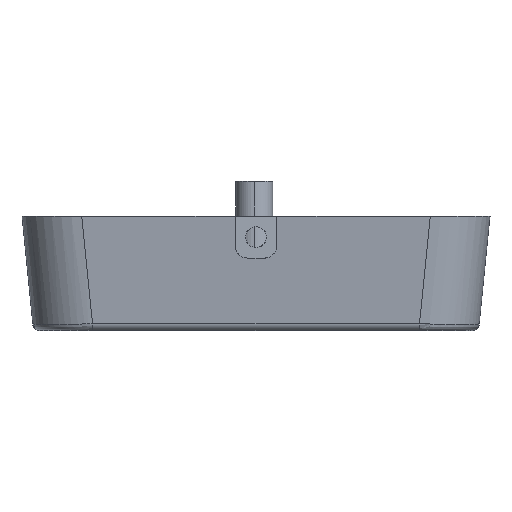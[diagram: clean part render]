
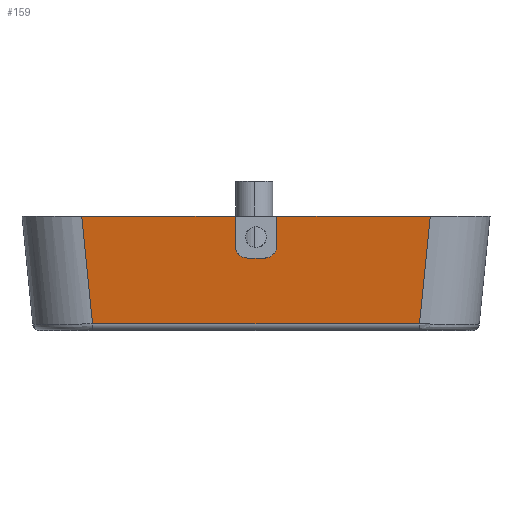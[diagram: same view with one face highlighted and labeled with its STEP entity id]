
A CAD part, left-side view. The second image highlights one B-rep face of the part: STEP entity #159.
In plain terms, the highlighted planar face has unit normal (-0.995, 0, -0.1).
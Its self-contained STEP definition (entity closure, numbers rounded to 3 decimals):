
#159=ADVANCED_FACE('',(#527),#5997,.T.);
#527=FACE_OUTER_BOUND('',#918,.T.);
#918=EDGE_LOOP('',(#1788,#1789,#1790,#1791,#1792,#1793,#1794,#1795,#1796,
#1797));
#1788=ORIENTED_EDGE('',*,*,#3622,.T.);
#1789=ORIENTED_EDGE('',*,*,#3623,.T.);
#1790=ORIENTED_EDGE('',*,*,#3701,.T.);
#1791=ORIENTED_EDGE('',*,*,#3620,.T.);
#1792=ORIENTED_EDGE('',*,*,#3621,.T.);
#1793=ORIENTED_EDGE('',*,*,#3601,.T.);
#1794=ORIENTED_EDGE('',*,*,#3448,.F.);
#1795=ORIENTED_EDGE('',*,*,#3452,.T.);
#1796=ORIENTED_EDGE('',*,*,#3445,.T.);
#1797=ORIENTED_EDGE('',*,*,#3437,.T.);
#3437=EDGE_CURVE('',#5430,#5553,#4182,.T.);
#3445=EDGE_CURVE('',#5447,#5430,#4187,.T.);
#3448=EDGE_CURVE('',#5448,#5431,#4188,.T.);
#3452=EDGE_CURVE('',#5448,#5447,#4190,.T.);
#3601=EDGE_CURVE('',#5552,#5431,#4226,.T.);
#3620=EDGE_CURVE('',#5550,#5551,#4771,.T.);
#3621=EDGE_CURVE('',#5551,#5552,#4772,.T.);
#3622=EDGE_CURVE('',#5553,#5554,#4773,.T.);
#3623=EDGE_CURVE('',#5554,#5555,#4774,.T.);
#3701=EDGE_CURVE('',#5555,#5550,#4833,.T.);
#4182=(
BOUNDED_CURVE()
B_SPLINE_CURVE(2,(#9299,#9300,#9301),.UNSPECIFIED.,.F.,.F.)
B_SPLINE_CURVE_WITH_KNOTS((3,3),(-188.,-155.415),
 .UNSPECIFIED.)
CURVE()
GEOMETRIC_REPRESENTATION_ITEM()
RATIONAL_B_SPLINE_CURVE((1.,1.,1.))
REPRESENTATION_ITEM('')
);
#4187=(
BOUNDED_CURVE()
B_SPLINE_CURVE(3,(#9322,#9323,#9324,#9325),.UNSPECIFIED.,.F.,.F.)
B_SPLINE_CURVE_WITH_KNOTS((4,4),(1.364,23.199),
 .UNSPECIFIED.)
CURVE()
GEOMETRIC_REPRESENTATION_ITEM()
RATIONAL_B_SPLINE_CURVE((1.,1.,1.,1.))
REPRESENTATION_ITEM('')
);
#4188=(
BOUNDED_CURVE()
B_SPLINE_CURVE(3,(#9331,#9332,#9333,#9334),.UNSPECIFIED.,.F.,.F.)
B_SPLINE_CURVE_WITH_KNOTS((4,4),(1.364,23.199),
 .UNSPECIFIED.)
CURVE()
GEOMETRIC_REPRESENTATION_ITEM()
RATIONAL_B_SPLINE_CURVE((1.,1.,1.,1.))
REPRESENTATION_ITEM('')
);
#4190=(
BOUNDED_CURVE()
B_SPLINE_CURVE(1,(#9344,#9345),.UNSPECIFIED.,.F.,.F.)
B_SPLINE_CURVE_WITH_KNOTS((2,2),(-0.135,65.541),
 .UNSPECIFIED.)
CURVE()
GEOMETRIC_REPRESENTATION_ITEM()
RATIONAL_B_SPLINE_CURVE((1.,1.))
REPRESENTATION_ITEM('')
);
#4226=(
BOUNDED_CURVE()
B_SPLINE_CURVE(2,(#9759,#9760,#9761),.UNSPECIFIED.,.F.,.F.)
B_SPLINE_CURVE_WITH_KNOTS((3,3),(-146.528,-113.943),
 .UNSPECIFIED.)
CURVE()
GEOMETRIC_REPRESENTATION_ITEM()
RATIONAL_B_SPLINE_CURVE((1.,1.,1.))
REPRESENTATION_ITEM('')
);
#4771=B_SPLINE_CURVE_WITH_KNOTS('',3,(#9838,#9839,#9840,#9841,#9842,#9843,
#9844,#9845,#9846),.UNSPECIFIED.,.F.,.F.,(4,2,3,4),(0.,0.989,
1.978,4.),.UNSPECIFIED.);
#4772=B_SPLINE_CURVE_WITH_KNOTS('',3,(#9847,#9848,#9849,#9850),
 .UNSPECIFIED.,.F.,.F.,(4,4),(0.,5.929),.UNSPECIFIED.);
#4773=B_SPLINE_CURVE_WITH_KNOTS('',3,(#9851,#9852,#9853,#9854),
 .UNSPECIFIED.,.F.,.F.,(4,4),(0.,5.929),.UNSPECIFIED.);
#4774=B_SPLINE_CURVE_WITH_KNOTS('',3,(#9855,#9856,#9857,#9858,#9859,#9860,
#9861,#9862,#9863),.UNSPECIFIED.,.F.,.F.,(4,3,2,4),(0.,2.022,
3.011,4.),.UNSPECIFIED.);
#4833=B_SPLINE_CURVE_WITH_KNOTS('',1,(#10262,#10263),.UNSPECIFIED.,.F.,
 .F.,(2,2),(50.754,54.154),.UNSPECIFIED.);
#5430=VERTEX_POINT('',#8233);
#5431=VERTEX_POINT('',#8234);
#5447=VERTEX_POINT('',#8250);
#5448=VERTEX_POINT('',#8251);
#5550=VERTEX_POINT('',#8353);
#5551=VERTEX_POINT('',#8354);
#5552=VERTEX_POINT('',#8355);
#5553=VERTEX_POINT('',#8356);
#5554=VERTEX_POINT('',#8357);
#5555=VERTEX_POINT('',#8358);
#5997=PLANE('',#6347);
#6347=AXIS2_PLACEMENT_3D('',#7411,#6802,$);
#6802=DIRECTION('',(-0.995,0.,-0.1));
#7411=CARTESIAN_POINT('',(-1793.265,1614.598,-22.97));
#8233=CARTESIAN_POINT('',(-1795.562,1612.301,0.));
#8234=CARTESIAN_POINT('',(-1795.562,1682.301,0.));
#8250=CARTESIAN_POINT('',(-1793.4,1614.463,-21.62));
#8251=CARTESIAN_POINT('',(-1793.4,1680.139,-21.62));
#8353=CARTESIAN_POINT('',(-1794.722,1649.001,-8.4));
#8354=CARTESIAN_POINT('',(-1794.972,1651.501,-5.9));
#8355=CARTESIAN_POINT('',(-1795.562,1651.501,0.));
#8356=CARTESIAN_POINT('',(-1795.562,1643.101,0.));
#8357=CARTESIAN_POINT('',(-1794.972,1643.101,-5.9));
#8358=CARTESIAN_POINT('',(-1794.722,1645.601,-8.4));
#9299=CARTESIAN_POINT('',(-1795.562,1612.301,0.));
#9300=CARTESIAN_POINT('',(-1795.562,1627.701,0.));
#9301=CARTESIAN_POINT('',(-1795.562,1643.101,0.));
#9322=CARTESIAN_POINT('',(-1793.4,1614.463,-21.62));
#9323=CARTESIAN_POINT('',(-1794.121,1613.743,-14.413));
#9324=CARTESIAN_POINT('',(-1794.842,1613.022,-7.207));
#9325=CARTESIAN_POINT('',(-1795.562,1612.301,0.));
#9331=CARTESIAN_POINT('',(-1793.4,1680.139,-21.62));
#9332=CARTESIAN_POINT('',(-1794.121,1680.86,-14.413));
#9333=CARTESIAN_POINT('',(-1794.842,1681.581,-7.207));
#9334=CARTESIAN_POINT('',(-1795.562,1682.301,0.));
#9344=CARTESIAN_POINT('',(-1793.4,1680.139,-21.62));
#9345=CARTESIAN_POINT('',(-1793.4,1614.463,-21.62));
#9759=CARTESIAN_POINT('',(-1795.562,1651.501,0.));
#9760=CARTESIAN_POINT('',(-1795.562,1666.901,0.));
#9761=CARTESIAN_POINT('',(-1795.562,1682.301,0.));
#9838=CARTESIAN_POINT('',(-1794.722,1649.001,-8.4));
#9839=CARTESIAN_POINT('',(-1794.722,1649.33,-8.4));
#9840=CARTESIAN_POINT('',(-1794.729,1649.655,-8.335));
#9841=CARTESIAN_POINT('',(-1794.754,1650.262,-8.084));
#9842=CARTESIAN_POINT('',(-1794.772,1650.537,-7.9));
#9843=CARTESIAN_POINT('',(-1794.796,1650.769,-7.668));
#9844=CARTESIAN_POINT('',(-1794.842,1651.239,-7.198));
#9845=CARTESIAN_POINT('',(-1794.906,1651.501,-6.562));
#9846=CARTESIAN_POINT('',(-1794.972,1651.501,-5.9));
#9847=CARTESIAN_POINT('',(-1794.972,1651.501,-5.9));
#9848=CARTESIAN_POINT('',(-1795.169,1651.501,-3.933));
#9849=CARTESIAN_POINT('',(-1795.366,1651.501,-1.967));
#9850=CARTESIAN_POINT('',(-1795.562,1651.501,0.));
#9851=CARTESIAN_POINT('',(-1795.562,1643.101,0.));
#9852=CARTESIAN_POINT('',(-1795.366,1643.101,-1.967));
#9853=CARTESIAN_POINT('',(-1795.169,1643.101,-3.933));
#9854=CARTESIAN_POINT('',(-1794.972,1643.101,-5.9));
#9855=CARTESIAN_POINT('',(-1794.972,1643.101,-5.9));
#9856=CARTESIAN_POINT('',(-1794.906,1643.101,-6.562));
#9857=CARTESIAN_POINT('',(-1794.842,1643.364,-7.198));
#9858=CARTESIAN_POINT('',(-1794.796,1643.834,-7.668));
#9859=CARTESIAN_POINT('',(-1794.772,1644.065,-7.9));
#9860=CARTESIAN_POINT('',(-1794.754,1644.341,-8.084));
#9861=CARTESIAN_POINT('',(-1794.729,1644.947,-8.335));
#9862=CARTESIAN_POINT('',(-1794.722,1645.273,-8.4));
#9863=CARTESIAN_POINT('',(-1794.722,1645.601,-8.4));
#10262=CARTESIAN_POINT('',(-1794.722,1645.601,-8.4));
#10263=CARTESIAN_POINT('',(-1794.722,1649.001,-8.4));
